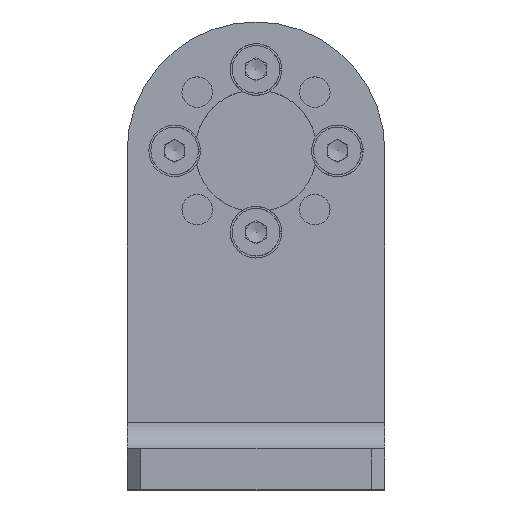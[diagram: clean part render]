
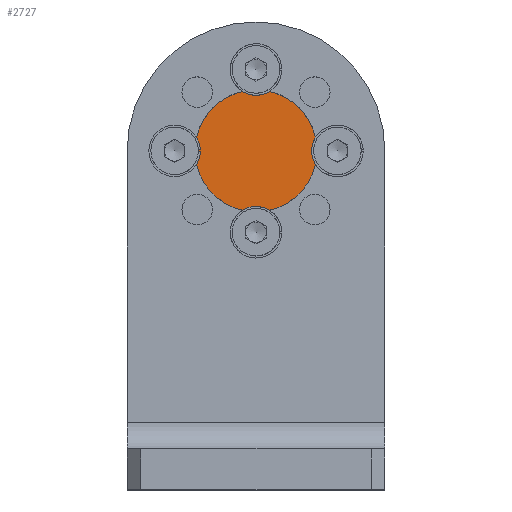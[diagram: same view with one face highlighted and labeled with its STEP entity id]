
A CAD part, top view. The second image highlights one B-rep face of the part: STEP entity #2727.
In plain terms, the highlighted planar face has unit normal (0, 0, 1).
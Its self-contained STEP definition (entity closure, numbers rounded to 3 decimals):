
#10 = VERTEX_POINT ( 'NONE', #432 ) ;
#18 = CIRCLE ( 'NONE', #4263, 9. ) ;
#328 = FACE_OUTER_BOUND ( 'NONE', #2906, .T. ) ;
#432 = CARTESIAN_POINT ( 'NONE',  ( 0., 59., -47. ) ) ;
#1664 = CARTESIAN_POINT ( 'NONE',  ( 0., 50., -47. ) ) ;
#1665 = DIRECTION ( 'NONE',  ( 0., 0., -1. ) ) ;
#1667 = DIRECTION ( 'NONE',  ( 0., 1., 0. ) ) ;
#2201 = ORIENTED_EDGE ( 'NONE', *, *, #4057, .F. ) ;
#2727 = ADVANCED_FACE ( 'NONE', ( #328 ), #3718, .T. ) ;
#2906 = EDGE_LOOP ( 'NONE', ( #2201 ) ) ;
#3718 = PLANE ( 'NONE',  #4091 ) ;
#3730 = CARTESIAN_POINT ( 'NONE',  ( 0., 50., -47. ) ) ;
#3731 = DIRECTION ( 'NONE',  ( 0., 0., 1. ) ) ;
#3732 = DIRECTION ( 'NONE',  ( 1., 0., 0. ) ) ;
#4057 = EDGE_CURVE ( 'NONE', #10, #10, #18, .T. ) ;
#4091 = AXIS2_PLACEMENT_3D ( 'NONE', #3730, #3731, #3732 ) ;
#4263 = AXIS2_PLACEMENT_3D ( 'NONE', #1664, #1665, #1667 ) ;
